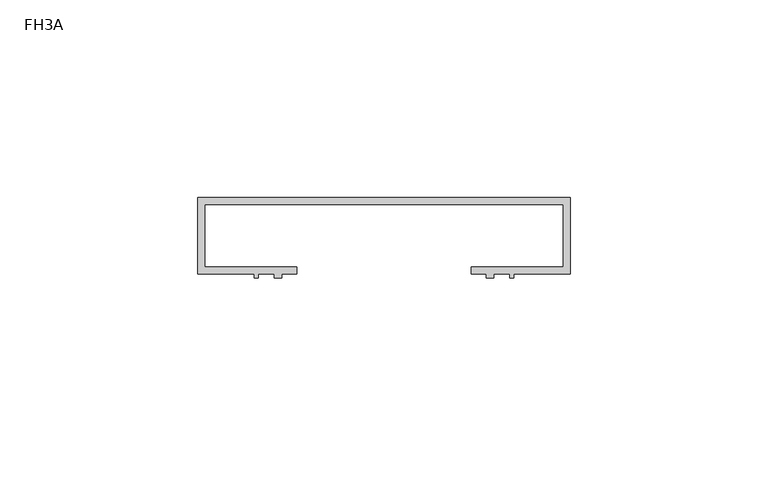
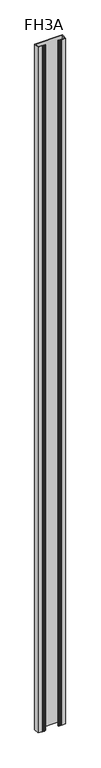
"""IFC4 building model written with IfcOpenShell, lengths in millimetres: proxy geometry, Connection-Teknion-FH3A-Three_Way_Transition-R2022 : FH3A."""

from ifc_helpers import new_model, si_unit, frame, origin, place, context, project, spatial, polyline, outline, extrude, source, transform, mapped, element, save


def fh3a_2be0b722(model_context):
    return source(origin(), model_context, "Body", "SweptSolid", [
        extrude(outline(polyline([(-46.9900006, 9.6519987), (46.9900006, 9.6519987), (46.9900006, -9.6519987), (32.8041023, -9.6519987), (32.8041023, -10.668), (31.7880988, -10.668), (31.7880988, -9.6519987), (27.6860008, -9.6519987), (27.6860008, -10.668), (25.7810004, -10.668), (25.7810004, -9.6519987), (22.0218003, -9.6519987), (22.0218003, -7.8740004), (45.2120023, -7.8740004), (45.2120023, 7.8740004), (-45.2120023, 7.8740004), (-45.2120023, -7.8740004), (-22.0218003, -7.8740004), (-22.0218003, -9.6519987), (-25.7810004, -9.6519987), (-25.7810004, -10.668), (-27.6860008, -10.668), (-27.6860008, -9.6519987), (-31.7880988, -9.6519987), (-31.7880988, -10.668), (-32.8041023, -10.668), (-32.8041023, -9.6519987), (-46.9900006, -9.6519987), (-46.9900006, 9.6519987)])), frame((0.0, 0.0, -1246.8539596), z_axis=(0.0, 0.0, 1.0), x_axis=(1.0, 0.0, 0.0)), (0.0, 0.0, 1.0), 2455.8752778),
    ])


if __name__ == "__main__":
    model = new_model("IFC4")
    model_context = context("Model", 3, world=origin())
    ifc_project = project(units=[si_unit("LENGTHUNIT", "METRE", prefix="MILLI")], contexts=[model_context])
    site = spatial("IfcSite", under=ifc_project)
    building = spatial("IfcBuilding", under=site)
    placement = place(None, origin())
    fh3a_shape = fh3a_2be0b722(model_context)
    element("IfcBuildingElementProxy", 1, Name="Connection-Teknion-FH3A-Three_Way_Transition-R2022 : FH3A", ObjectType="Connection-Teknion-FH3A-Three_Way_Transition-R2022 : FH3A", at=placement, inside=building, context=model_context, shape_type="MappedRepresentation", body=[
        mapped(fh3a_shape, transform((0.0, 0.0, 0.0), x_axis=(1.0, 0.0, 0.0), y_axis=(0.0, 1.0, 0.0), z_axis=(0.0, 0.0, 1.0))),
    ])
    save(model, "model.ifc")
